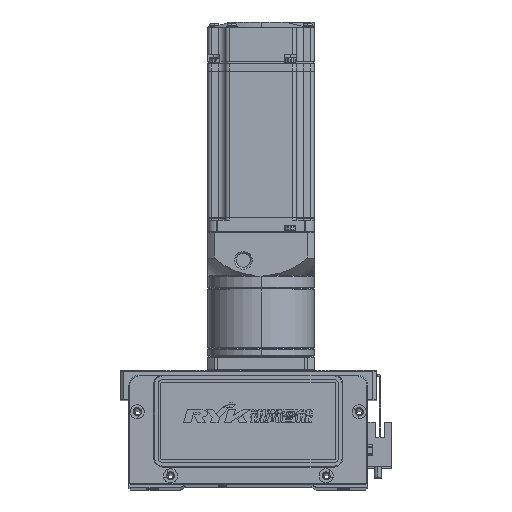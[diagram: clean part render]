
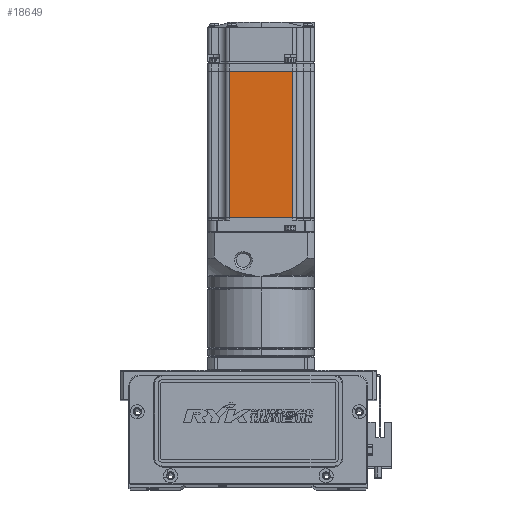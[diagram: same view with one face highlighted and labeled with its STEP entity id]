
A CAD part, top view. The second image highlights one B-rep face of the part: STEP entity #18649.
In plain terms, the highlighted planar face has unit normal (0, 0, 1).
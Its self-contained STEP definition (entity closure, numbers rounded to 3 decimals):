
#461 = ORIENTED_EDGE ( 'NONE', *, *, #2305, .T. ) ;
#538 = VECTOR ( 'NONE', #3141, 1000. ) ;
#2305 = EDGE_CURVE ( 'NONE', #50330, #12081, #55964, .T. ) ;
#3141 = DIRECTION ( 'NONE',  ( 0., -1., 0. ) ) ;
#5954 = ORIENTED_EDGE ( 'NONE', *, *, #31909, .F. ) ;
#8119 = VERTEX_POINT ( 'NONE', #30614 ) ;
#10421 = LINE ( 'NONE', #13172, #538 ) ;
#12081 = VERTEX_POINT ( 'NONE', #29719 ) ;
#12227 = CARTESIAN_POINT ( 'NONE',  ( -6.5, 18., 30. ) ) ;
#13172 = CARTESIAN_POINT ( 'NONE',  ( -7.75, 0., 30. ) ) ;
#15404 = LINE ( 'NONE', #30004, #21091 ) ;
#17102 = CARTESIAN_POINT ( 'NONE',  ( -90.45, 18., 30. ) ) ;
#17141 = AXIS2_PLACEMENT_3D ( 'NONE', #51905, #62178, #57628 ) ;
#17691 = VECTOR ( 'NONE', #53816, 1000. ) ;
#18649 = ADVANCED_FACE ( 'NONE', ( #51422 ), #67431, .T. ) ;
#21091 = VECTOR ( 'NONE', #23811, 1000. ) ;
#23811 = DIRECTION ( 'NONE',  ( -1., 0., 0. ) ) ;
#28331 = EDGE_LOOP ( 'NONE', ( #66581, #53599, #461, #5954 ) ) ;
#29719 = CARTESIAN_POINT ( 'NONE',  ( -90.45, -18., 30. ) ) ;
#29817 = VECTOR ( 'NONE', #35520, 1000. ) ;
#30004 = CARTESIAN_POINT ( 'NONE',  ( -6.5, -18., 30. ) ) ;
#30614 = CARTESIAN_POINT ( 'NONE',  ( -7.75, -18., 30. ) ) ;
#31909 = EDGE_CURVE ( 'NONE', #8119, #12081, #15404, .T. ) ;
#35520 = DIRECTION ( 'NONE',  ( 0., -1., 0. ) ) ;
#38930 = LINE ( 'NONE', #12227, #17691 ) ;
#40537 = EDGE_CURVE ( 'NONE', #44135, #50330, #38930, .T. ) ;
#44135 = VERTEX_POINT ( 'NONE', #60410 ) ;
#50330 = VERTEX_POINT ( 'NONE', #17102 ) ;
#51422 = FACE_OUTER_BOUND ( 'NONE', #28331, .T. ) ;
#51905 = CARTESIAN_POINT ( 'NONE',  ( -6.5, -25., 30. ) ) ;
#53599 = ORIENTED_EDGE ( 'NONE', *, *, #40537, .T. ) ;
#53816 = DIRECTION ( 'NONE',  ( -1., 0., 0. ) ) ;
#55964 = LINE ( 'NONE', #62249, #29817 ) ;
#57628 = DIRECTION ( 'NONE',  ( 1., 0., 0. ) ) ;
#60410 = CARTESIAN_POINT ( 'NONE',  ( -7.75, 18., 30. ) ) ;
#62178 = DIRECTION ( 'NONE',  ( 0., 0., 1. ) ) ;
#62249 = CARTESIAN_POINT ( 'NONE',  ( -90.45, 0., 30. ) ) ;
#66581 = ORIENTED_EDGE ( 'NONE', *, *, #66746, .F. ) ;
#66746 = EDGE_CURVE ( 'NONE', #44135, #8119, #10421, .T. ) ;
#67431 = PLANE ( 'NONE',  #17141 ) ;
